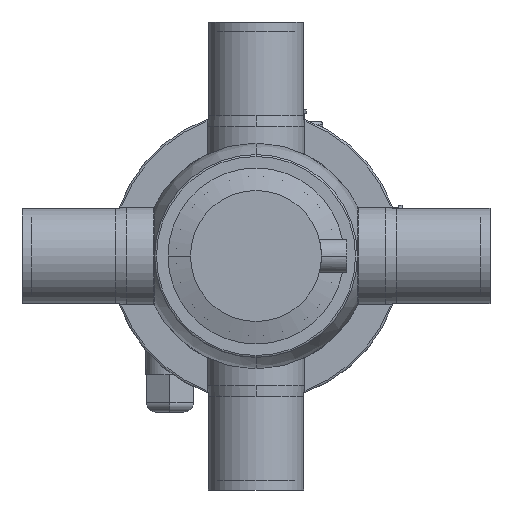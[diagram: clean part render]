
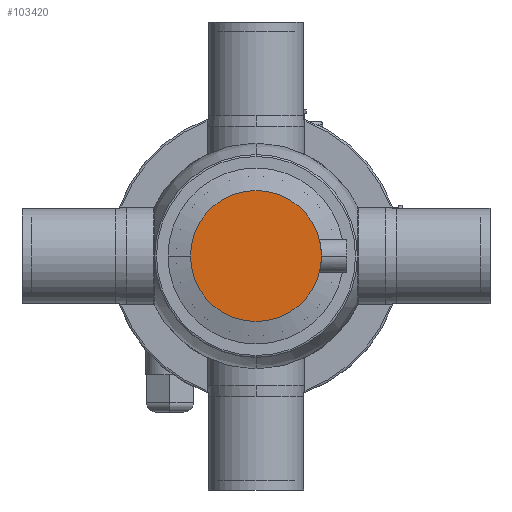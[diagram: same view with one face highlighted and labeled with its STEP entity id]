
A CAD part, front view. The second image highlights one B-rep face of the part: STEP entity #103420.
In plain terms, the highlighted planar face has unit normal (0, -1, 0).
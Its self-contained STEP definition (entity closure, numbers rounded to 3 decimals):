
#97920=CARTESIAN_POINT('',(35.,-92.85,0.))
;
#97930=VERTEX_POINT('',#97920);
#103180=CARTESIAN_POINT('',(-35.,-92.85,0.));
#103190=VERTEX_POINT('',#103180);
#103220=CARTESIAN_POINT('',(0.,-92.85,0.));
#103230=DIRECTION('',(0.,-1.,0.));
#103240=DIRECTION('',(-1.,0.,0.));
#103250=AXIS2_PLACEMENT_3D('',#103220,#103230,#103240);
#103260=CIRCLE('',#103250,35.);
#103270=EDGE_CURVE('',#103190,#97930,#103260,.T.);
#103320=CARTESIAN_POINT('',(0.,-92.85,0.));
#103330=DIRECTION('',(0.,-1.,0.));
#103340=DIRECTION('',(-1.,0.,0.));
#103350=AXIS2_PLACEMENT_3D('',#103320,#103330,#103340);
#103360=PLANE('',#103350);
#103370=EDGE_CURVE('',#97930,#103190,#103260,.T.);
#103380=ORIENTED_EDGE('',*,*,#103370,.T.);
#103390=ORIENTED_EDGE('',*,*,#103270,.T.);
#103400=EDGE_LOOP('',(#103390,#103380));
#103410=FACE_OUTER_BOUND('',#103400,.T.);
#103420=ADVANCED_FACE('',(#103410),#103360,.T.);
